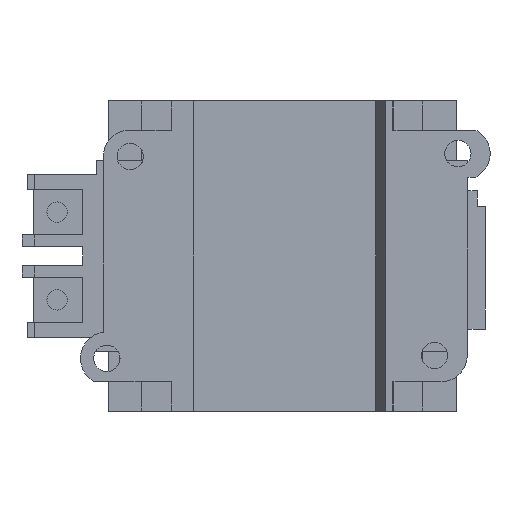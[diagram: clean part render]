
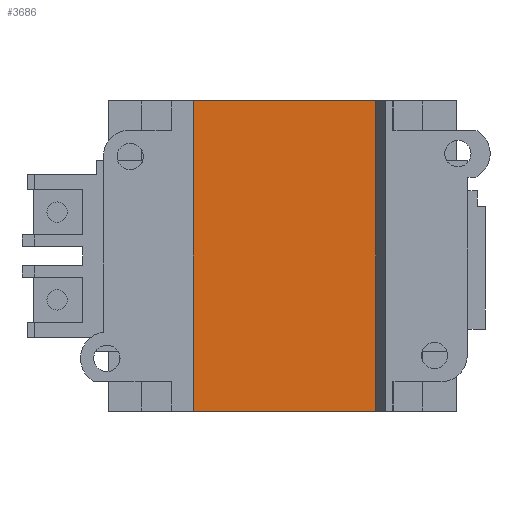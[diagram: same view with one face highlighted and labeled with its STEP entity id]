
A CAD part, left-side view. The second image highlights one B-rep face of the part: STEP entity #3686.
In plain terms, the highlighted planar face has unit normal (-1, 0, 0).
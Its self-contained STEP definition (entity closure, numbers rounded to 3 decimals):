
#3318 = VERTEX_POINT( '', #8055 );
#3686 = ADVANCED_FACE( '', ( #8465 ), #8466, .F. );
#3806 = VERTEX_POINT( '', #8603 );
#3846 = EDGE_CURVE( '', #3318, #3806, #8647, .T. );
#5168 = VERTEX_POINT( '', #10108 );
#5242 = EDGE_CURVE( '', #5168, #3806, #10191, .T. );
#5274 = VERTEX_POINT( '', #10225 );
#5420 = EDGE_CURVE( '', #3318, #5274, #10386, .T. );
#6560 = EDGE_CURVE( '', #5274, #5168, #11643, .T. );
#8055 = CARTESIAN_POINT( '', ( -67.45, 15.2, 26.5 ) );
#8465 = FACE_OUTER_BOUND( '', #14124, .T. );
#8466 = PLANE( '', #14125 );
#8603 = CARTESIAN_POINT( '', ( -67.45, 15.2, -26.5 ) );
#8647 = LINE( '', #14362, #14363 );
#10108 = CARTESIAN_POINT( '', ( -67.45, -16., -26.5 ) );
#10191 = LINE( '', #16451, #16452 );
#10225 = CARTESIAN_POINT( '', ( -67.45, -16., 26.5 ) );
#10386 = LINE( '', #16725, #16726 );
#11643 = LINE( '', #18444, #18445 );
#14124 = EDGE_LOOP( '', ( #20690, #20691, #20692, #20693 ) );
#14125 = AXIS2_PLACEMENT_3D( '', #20694, #20695, #20696 );
#14362 = CARTESIAN_POINT( '', ( -67.45, 15.2, 26.5 ) );
#14363 = VECTOR( '', #20920, 1. );
#16451 = CARTESIAN_POINT( '', ( -67.45, -8., -26.5 ) );
#16452 = VECTOR( '', #22742, 1. );
#16725 = CARTESIAN_POINT( '', ( -67.45, -8., 26.5 ) );
#16726 = VECTOR( '', #22970, 1. );
#18444 = CARTESIAN_POINT( '', ( -67.45, -16., 26.5 ) );
#18445 = VECTOR( '', #24318, 1. );
#20690 = ORIENTED_EDGE( '', *, *, #5242, .F. );
#20691 = ORIENTED_EDGE( '', *, *, #6560, .F. );
#20692 = ORIENTED_EDGE( '', *, *, #5420, .F. );
#20693 = ORIENTED_EDGE( '', *, *, #3846, .T. );
#20694 = CARTESIAN_POINT( '', ( -67.45, -16., 26.5 ) );
#20695 = DIRECTION( '', ( 1., 0., 0. ) );
#20696 = DIRECTION( '', ( 0., -1., 0. ) );
#20920 = DIRECTION( '', ( 0., 0., -1. ) );
#22742 = DIRECTION( '', ( 0., 1., 0. ) );
#22970 = DIRECTION( '', ( 0., -1., 0. ) );
#24318 = DIRECTION( '', ( 0., 0., -1. ) );
